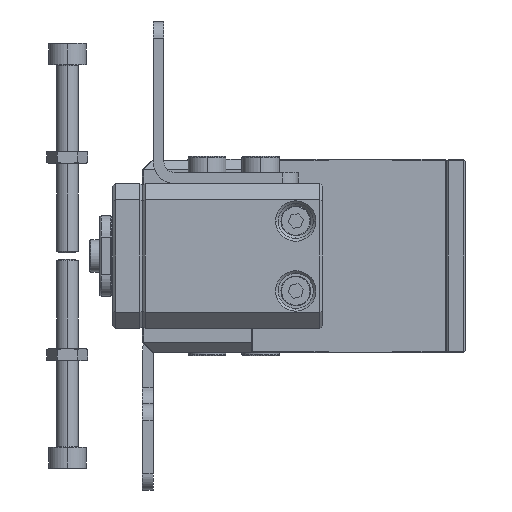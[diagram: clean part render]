
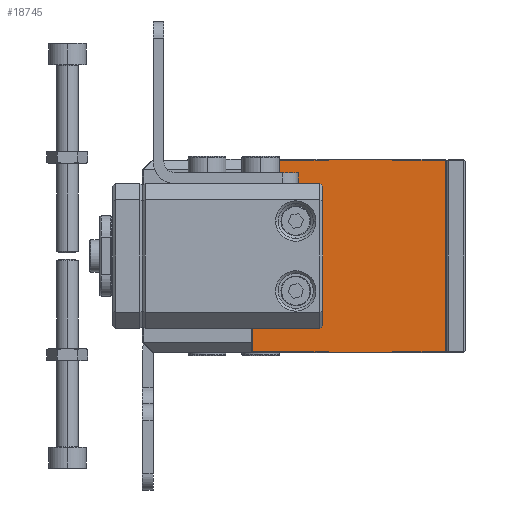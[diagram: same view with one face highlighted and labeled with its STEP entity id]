
A CAD part, left-side view. The second image highlights one B-rep face of the part: STEP entity #18745.
In plain terms, the highlighted planar face has unit normal (-1, 0, 0).
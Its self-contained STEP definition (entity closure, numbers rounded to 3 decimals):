
#1595 = EDGE_CURVE ( 'NONE', #10925, #40056, #14425, .T. ) ;
#1789 = EDGE_CURVE ( 'NONE', #40056, #45259, #20365, .T. ) ;
#1869 = DIRECTION ( 'NONE',  ( 0., 0., -1. ) ) ;
#1971 = DIRECTION ( 'NONE',  ( 0., 0., 1. ) ) ;
#3056 = DIRECTION ( 'NONE',  ( 0., 1., 0. ) ) ;
#3688 = DIRECTION ( 'NONE',  ( 0., 0., 1. ) ) ;
#4275 = EDGE_LOOP ( 'NONE', ( #28733, #36955, #23833, #7888, #17662, #6591, #12249, #27778, #36113, #35393, #21898, #19999 ) ) ;
#5674 = EDGE_CURVE ( 'NONE', #45259, #25447, #15878, .T. ) ;
#5910 = VECTOR ( 'NONE', #34863, 1000. ) ;
#6233 = VECTOR ( 'NONE', #10209, 1000. ) ;
#6289 = EDGE_CURVE ( 'NONE', #10925, #31893, #9403, .T. ) ;
#6591 = ORIENTED_EDGE ( 'NONE', *, *, #7553, .F. ) ;
#7553 = EDGE_CURVE ( 'NONE', #43683, #35107, #36331, .T. ) ;
#7851 = DIRECTION ( 'NONE',  ( 0., 0., -1. ) ) ;
#7888 = ORIENTED_EDGE ( 'NONE', *, *, #25031, .F. ) ;
#8469 = VERTEX_POINT ( 'NONE', #9112 ) ;
#9112 = CARTESIAN_POINT ( 'NONE',  ( -26., 25.5, 17.8 ) ) ;
#9403 = LINE ( 'NONE', #24773, #10275 ) ;
#9585 = CARTESIAN_POINT ( 'NONE',  ( -26., 25.5, -17.8 ) ) ;
#9598 = DIRECTION ( 'NONE',  ( 0., 1., 0. ) ) ;
#10209 = DIRECTION ( 'NONE',  ( 0., 0., -1. ) ) ;
#10275 = VECTOR ( 'NONE', #3056, 1000. ) ;
#10925 = VERTEX_POINT ( 'NONE', #13565 ) ;
#11011 = LINE ( 'NONE', #29806, #26093 ) ;
#11149 = CARTESIAN_POINT ( 'NONE',  ( -26., 24.5, -18. ) ) ;
#12249 = ORIENTED_EDGE ( 'NONE', *, *, #27181, .F. ) ;
#12374 = LINE ( 'NONE', #42656, #18620 ) ;
#12622 = LINE ( 'NONE', #16307, #5910 ) ;
#13493 = CARTESIAN_POINT ( 'NONE',  ( -26., 24.5, -17.8 ) ) ;
#13565 = CARTESIAN_POINT ( 'NONE',  ( -26., 13.5, 18. ) ) ;
#13604 = EDGE_CURVE ( 'NONE', #25447, #36801, #12622, .T. ) ;
#14227 = LINE ( 'NONE', #13493, #27861 ) ;
#14425 = LINE ( 'NONE', #40333, #35806 ) ;
#14519 = VECTOR ( 'NONE', #41156, 1000. ) ;
#15878 = LINE ( 'NONE', #26866, #46204 ) ;
#16098 = CARTESIAN_POINT ( 'NONE',  ( -26., 24.5, 18. ) ) ;
#16305 = VECTOR ( 'NONE', #41664, 1000. ) ;
#16307 = CARTESIAN_POINT ( 'NONE',  ( -26., 24.5, -17.8 ) ) ;
#17662 = ORIENTED_EDGE ( 'NONE', *, *, #24332, .F. ) ;
#18620 = VECTOR ( 'NONE', #1869, 1000. ) ;
#18745 = ADVANCED_FACE ( 'NONE', ( #19533 ), #38340, .F. ) ;
#19155 = CARTESIAN_POINT ( 'NONE',  ( -26., 24.5, 17.8 ) ) ;
#19533 = FACE_OUTER_BOUND ( 'NONE', #4275, .T. ) ;
#19999 = ORIENTED_EDGE ( 'NONE', *, *, #6289, .T. ) ;
#20238 = DIRECTION ( 'NONE',  ( 1., 0., 0. ) ) ;
#20365 = LINE ( 'NONE', #26748, #16305 ) ;
#21765 = DIRECTION ( 'NONE',  ( 0., 0., -1. ) ) ;
#21789 = VECTOR ( 'NONE', #40722, 1000. ) ;
#21814 = CARTESIAN_POINT ( 'NONE',  ( -26., 25.5, 18. ) ) ;
#21898 = ORIENTED_EDGE ( 'NONE', *, *, #1595, .F. ) ;
#21921 = CARTESIAN_POINT ( 'NONE',  ( -26., 25.5, 18. ) ) ;
#22208 = CARTESIAN_POINT ( 'NONE',  ( -26., 3.7, -17.8 ) ) ;
#23833 = ORIENTED_EDGE ( 'NONE', *, *, #34564, .F. ) ;
#24332 = EDGE_CURVE ( 'NONE', #35107, #48213, #44151, .T. ) ;
#24773 = CARTESIAN_POINT ( 'NONE',  ( -26., 24.5, 18. ) ) ;
#24811 = CARTESIAN_POINT ( 'NONE',  ( -26., 39.5, 17.8 ) ) ;
#25031 = EDGE_CURVE ( 'NONE', #48213, #37195, #14227, .T. ) ;
#25447 = VERTEX_POINT ( 'NONE', #22208 ) ;
#25943 = CARTESIAN_POINT ( 'NONE',  ( -26., 13.5, -18. ) ) ;
#26093 = VECTOR ( 'NONE', #3688, 1000. ) ;
#26748 = CARTESIAN_POINT ( 'NONE',  ( -26., 24.5, 17.8 ) ) ;
#26866 = CARTESIAN_POINT ( 'NONE',  ( -26., 3.7, 18. ) ) ;
#27131 = CARTESIAN_POINT ( 'NONE',  ( -26., 13.5, 17.8 ) ) ;
#27181 = EDGE_CURVE ( 'NONE', #36801, #43683, #43419, .T. ) ;
#27778 = ORIENTED_EDGE ( 'NONE', *, *, #13604, .F. ) ;
#27806 = DIRECTION ( 'NONE',  ( 0., 0., -1. ) ) ;
#27861 = VECTOR ( 'NONE', #9598, 1000. ) ;
#28197 = CARTESIAN_POINT ( 'NONE',  ( -26., 39.5, -17.8 ) ) ;
#28483 = AXIS2_PLACEMENT_3D ( 'NONE', #16098, #20238, #27806 ) ;
#28733 = ORIENTED_EDGE ( 'NONE', *, *, #31261, .T. ) ;
#28818 = EDGE_CURVE ( 'NONE', #8469, #31480, #40671, .T. ) ;
#29401 = VECTOR ( 'NONE', #1971, 1000. ) ;
#29806 = CARTESIAN_POINT ( 'NONE',  ( -26., 39.5, 18. ) ) ;
#31261 = EDGE_CURVE ( 'NONE', #31893, #8469, #12374, .T. ) ;
#31480 = VERTEX_POINT ( 'NONE', #24811 ) ;
#31893 = VERTEX_POINT ( 'NONE', #21814 ) ;
#34564 = EDGE_CURVE ( 'NONE', #37195, #31480, #11011, .T. ) ;
#34863 = DIRECTION ( 'NONE',  ( 0., 1., 0. ) ) ;
#35107 = VERTEX_POINT ( 'NONE', #45158 ) ;
#35393 = ORIENTED_EDGE ( 'NONE', *, *, #1789, .F. ) ;
#35806 = VECTOR ( 'NONE', #21765, 1000. ) ;
#36113 = ORIENTED_EDGE ( 'NONE', *, *, #5674, .F. ) ;
#36331 = LINE ( 'NONE', #11149, #21789 ) ;
#36801 = VERTEX_POINT ( 'NONE', #47734 ) ;
#36955 = ORIENTED_EDGE ( 'NONE', *, *, #28818, .T. ) ;
#37195 = VERTEX_POINT ( 'NONE', #28197 ) ;
#38340 = PLANE ( 'NONE',  #28483 ) ;
#40056 = VERTEX_POINT ( 'NONE', #27131 ) ;
#40333 = CARTESIAN_POINT ( 'NONE',  ( -26., 13.5, 18. ) ) ;
#40671 = LINE ( 'NONE', #19155, #14519 ) ;
#40722 = DIRECTION ( 'NONE',  ( 0., 1., 0. ) ) ;
#41156 = DIRECTION ( 'NONE',  ( 0., 1., 0. ) ) ;
#41664 = DIRECTION ( 'NONE',  ( 0., -1., 0. ) ) ;
#42656 = CARTESIAN_POINT ( 'NONE',  ( -26., 25.5, -16.5 ) ) ;
#43419 = LINE ( 'NONE', #47316, #6233 ) ;
#43683 = VERTEX_POINT ( 'NONE', #25943 ) ;
#44151 = LINE ( 'NONE', #21921, #29401 ) ;
#45158 = CARTESIAN_POINT ( 'NONE',  ( -26., 25.5, -18. ) ) ;
#45259 = VERTEX_POINT ( 'NONE', #45728 ) ;
#45728 = CARTESIAN_POINT ( 'NONE',  ( -26., 3.7, 17.8 ) ) ;
#46204 = VECTOR ( 'NONE', #7851, 1000. ) ;
#47316 = CARTESIAN_POINT ( 'NONE',  ( -26., 13.5, 18. ) ) ;
#47734 = CARTESIAN_POINT ( 'NONE',  ( -26., 13.5, -17.8 ) ) ;
#48213 = VERTEX_POINT ( 'NONE', #9585 ) ;
